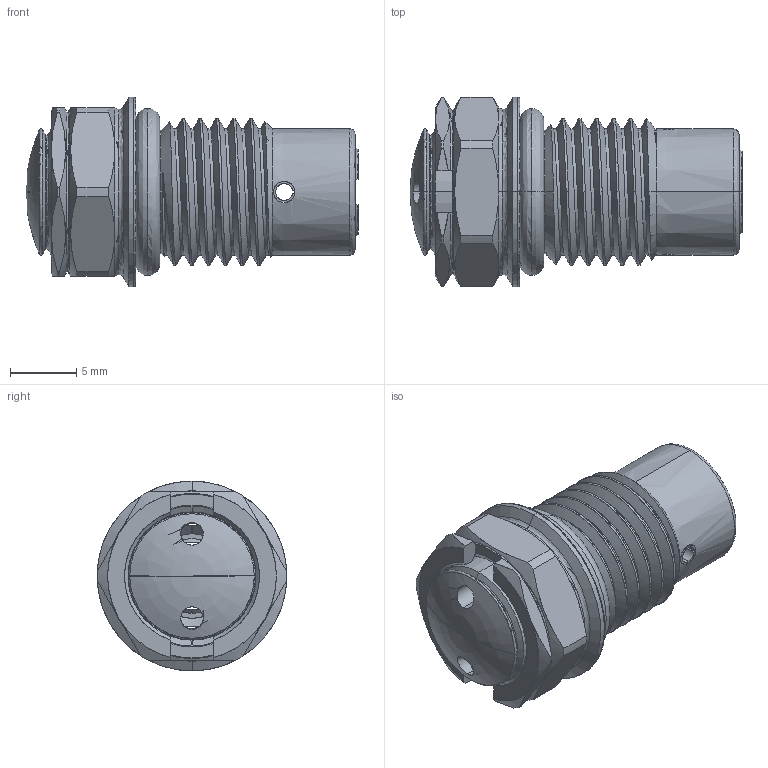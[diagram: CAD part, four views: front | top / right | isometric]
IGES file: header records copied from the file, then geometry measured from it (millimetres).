
Start section: SolidWorks IGES file using analytic representation for surfaces
Global section: file name: S:\3D_Product_Models\Pressure_Relief_Valves\PRV-SAESeal-0A-C-20140708a.IGS; native system: SolidWorks 2014; preprocessor: SolidWorks 2014; author: CJ_Chew; date: 140708.135750; units: inch
Bounding box: 24.99 x 14.29 x 14.29 mm (x, y, z)
Surface area: 2268.6 mm2 (no closed solid volume)
Topology: 0 solids, 0 shells, 155 faces, 1769 edges, 1768 vertices
Faces by surface type: revolution 96, bspline 59
